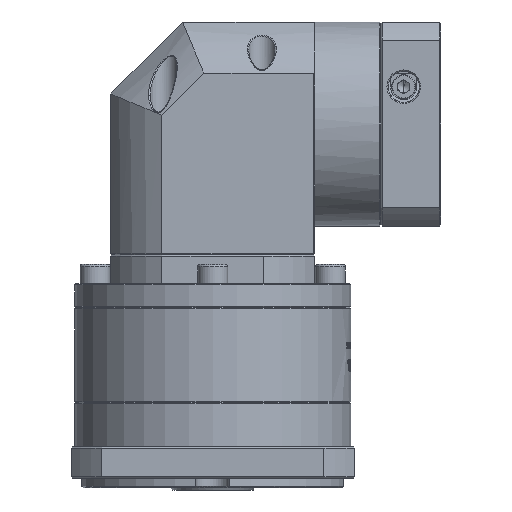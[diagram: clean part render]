
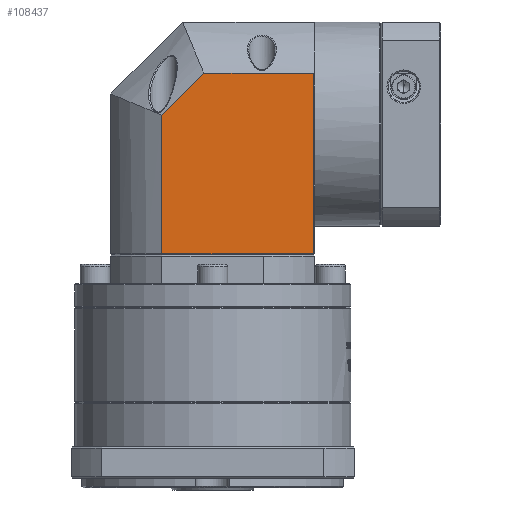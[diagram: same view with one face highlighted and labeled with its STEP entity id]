
A CAD part, front view. The second image highlights one B-rep face of the part: STEP entity #108437.
In plain terms, the highlighted planar face has unit normal (0, -1, 0).
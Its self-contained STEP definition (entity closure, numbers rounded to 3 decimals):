
#4387 = FACE_OUTER_BOUND ( 'NONE', #139364, .T. ) ;
#9838 = ORIENTED_EDGE ( 'NONE', *, *, #12826, .F. ) ;
#10702 = CARTESIAN_POINT ( 'NONE',  ( 88.856, 109.022, 61.581 ) ) ;
#10952 = CARTESIAN_POINT ( 'NONE',  ( 25.143, 109.022, 44.051 ) ) ;
#12604 = EDGE_CURVE ( 'NONE', #90090, #38551, #34934, .T. ) ;
#12826 = EDGE_CURVE ( 'NONE', #113193, #130110, #96781, .T. ) ;
#16999 = CARTESIAN_POINT ( 'NONE',  ( 88.856, 109.022, -13.632 ) ) ;
#18291 = EDGE_CURVE ( 'NONE', #130110, #90090, #46901, .T. ) ;
#28180 = CARTESIAN_POINT ( 'NONE',  ( 88.356, 109.022, 82.868 ) ) ;
#33655 = ORIENTED_EDGE ( 'NONE', *, *, #165870, .T. ) ;
#34934 = LINE ( 'NONE', #28180, #63949 ) ;
#37110 = LINE ( 'NONE', #16999, #123714 ) ;
#38551 = VERTEX_POINT ( 'NONE', #49818 ) ;
#41094 = EDGE_CURVE ( 'NONE', #114108, #113193, #57410, .T. ) ;
#42838 = VECTOR ( 'NONE', #146351, 1000. ) ;
#46901 = LINE ( 'NONE', #10702, #153917 ) ;
#49818 = CARTESIAN_POINT ( 'NONE',  ( 88.356, 109.022, -13.632 ) ) ;
#57410 = LINE ( 'NONE', #146909, #42838 ) ;
#63949 = VECTOR ( 'NONE', #120389, 1000. ) ;
#64122 = ORIENTED_EDGE ( 'NONE', *, *, #41094, .F. ) ;
#70115 = DIRECTION ( 'NONE',  ( 1., 0., 0. ) ) ;
#75084 = ORIENTED_EDGE ( 'NONE', *, *, #18291, .F. ) ;
#90090 = VERTEX_POINT ( 'NONE', #159750 ) ;
#90541 = CARTESIAN_POINT ( 'NONE',  ( 88.856, 109.022, 82.868 ) ) ;
#96781 = LINE ( 'NONE', #162871, #138043 ) ;
#102933 = DIRECTION ( 'NONE',  ( 1., 0., 0. ) ) ;
#103739 = DIRECTION ( 'NONE',  ( -1., 0., 0. ) ) ;
#108437 = ADVANCED_FACE ( 'NONE', ( #4387 ), #157795, .F. ) ;
#110859 = CARTESIAN_POINT ( 'NONE',  ( 25.143, 109.022, -13.632 ) ) ;
#113193 = VERTEX_POINT ( 'NONE', #10952 ) ;
#114108 = VERTEX_POINT ( 'NONE', #110859 ) ;
#120389 = DIRECTION ( 'NONE',  ( 0., 0., -1. ) ) ;
#123714 = VECTOR ( 'NONE', #70115, 1000. ) ;
#124925 = DIRECTION ( 'NONE',  ( 0.707, 0., 0.707 ) ) ;
#130110 = VERTEX_POINT ( 'NONE', #139669 ) ;
#138043 = VECTOR ( 'NONE', #124925, 1000. ) ;
#139364 = EDGE_LOOP ( 'NONE', ( #33655, #150074, #75084, #9838, #64122 ) ) ;
#139669 = CARTESIAN_POINT ( 'NONE',  ( 42.673, 109.022, 61.581 ) ) ;
#144012 = DIRECTION ( 'NONE',  ( 0., 1., 0. ) ) ;
#146351 = DIRECTION ( 'NONE',  ( 0., 0., 1. ) ) ;
#146909 = CARTESIAN_POINT ( 'NONE',  ( 25.143, 109.022, 82.868 ) ) ;
#150074 = ORIENTED_EDGE ( 'NONE', *, *, #12604, .F. ) ;
#153917 = VECTOR ( 'NONE', #102933, 1000. ) ;
#155113 = AXIS2_PLACEMENT_3D ( 'NONE', #90541, #144012, #103739 ) ;
#157795 = PLANE ( 'NONE',  #155113 ) ;
#159750 = CARTESIAN_POINT ( 'NONE',  ( 88.356, 109.022, 61.581 ) ) ;
#162871 = CARTESIAN_POINT ( 'NONE',  ( 25.143, 109.022, 44.051 ) ) ;
#165870 = EDGE_CURVE ( 'NONE', #114108, #38551, #37110, .T. ) ;
